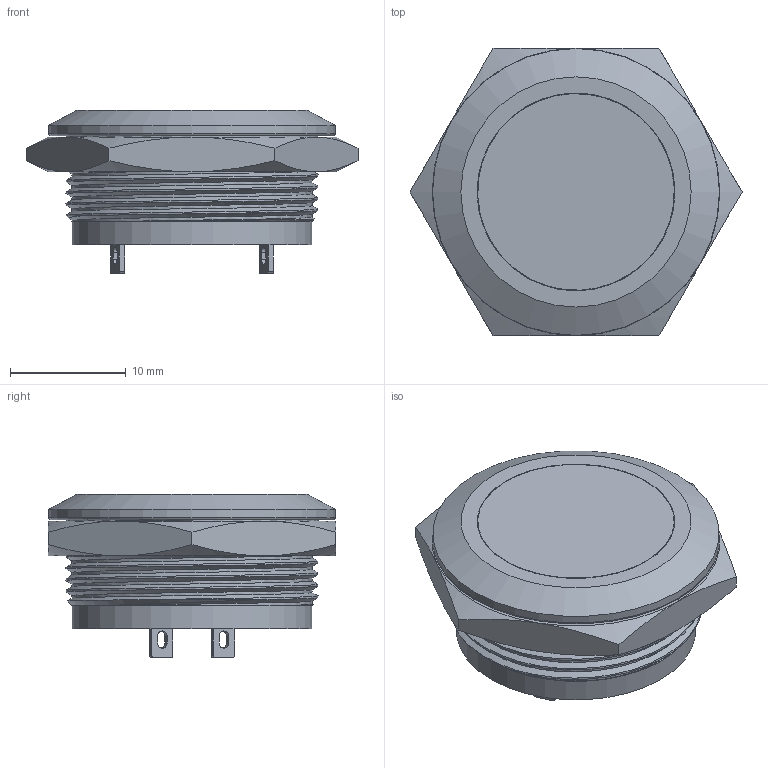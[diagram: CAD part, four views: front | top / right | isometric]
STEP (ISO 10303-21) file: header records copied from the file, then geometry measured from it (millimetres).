
FILE_DESCRIPTION(/* description */ (''),/* implementation_level */ '2;1');
FILE_NAME(/* name */ 'FM22S-SFP-10.stp',/* time_stamp */ '2020-08-05T11:08:34+08:00',/* author */ (''),/* organization */ (''),/* preprocessor_version */ 'ST-DEVELOPER v16.7',/* originating_system */ 'SIEMENS PLM Software NX 12.0',/* authorisation */ '');
FILE_SCHEMA (('AUTOMOTIVE_DESIGN { 1 0 10303 214 3 1 1 1 }'));
Length unit declared in the file: millimetre
Products named in the file (1): Admi4F983F75j4k7
Bounding box: 28.7 x 24.85 x 14.1 mm (x, y, z)
Volume: 2423.6 mm3; surface area: 4374.7 mm2
Topology: 1 solids, 2 shells, 232 faces, 578 edges, 382 vertices
Faces by surface type: plane 157, cylinder 39, cone 16, extrusion 12, bspline 6, torus 2
Full cylindrical faces by diameter (mm): 14.5 x1, 17 x1, 17.1 x2, 17.65 x1, 18.25 x1, 19.9 x2, 20.1 x2, 20.7 x1, 24.8 x1
Entity records: 9291 total; most frequent: CARTESIAN_POINT 3170, ORIENTED_EDGE 1106, DIRECTION 1013, EDGE_CURVE 553, VECTOR 389, LINE 377, VERTEX_POINT 373, AXIS2_PLACEMENT_3D 312
